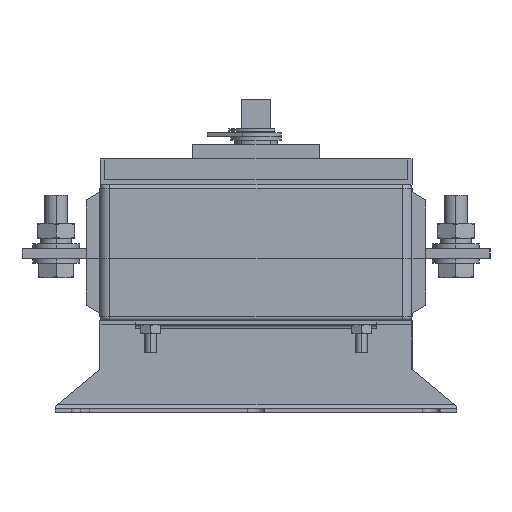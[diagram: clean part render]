
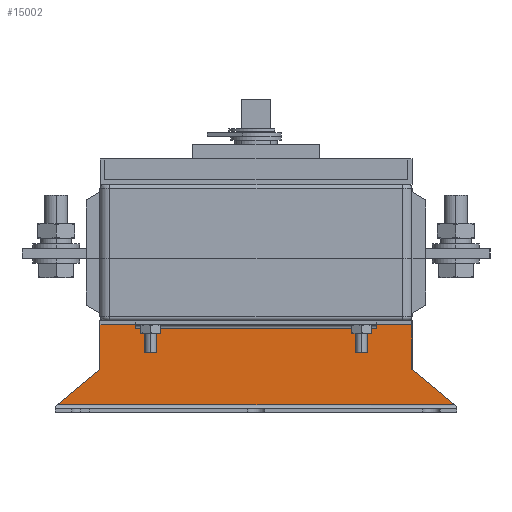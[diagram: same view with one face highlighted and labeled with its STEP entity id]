
A CAD part, left-side view. The second image highlights one B-rep face of the part: STEP entity #15002.
In plain terms, the highlighted planar face has unit normal (-1, 0, 0) as drawn and (0, 0, 1) by its records, which use the part's own axes.
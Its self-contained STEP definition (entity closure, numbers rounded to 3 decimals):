
#14278=DIRECTION('',(-1.,0.,0.));
#14279=VECTOR('',#14278,203.579);
#14280=CARTESIAN_POINT('',(101.789,4.,-8.5));
#14281=LINE('',#14280,#14279);
#14282=DIRECTION('',(1.,0.,0.));
#14283=VECTOR('',#14282,18.);
#14284=CARTESIAN_POINT('',(-80.,45.,-8.5));
#14285=LINE('',#14284,#14283);
#14286=DIRECTION('',(0.,1.,0.));
#14287=VECTOR('',#14286,2.);
#14288=CARTESIAN_POINT('',(-62.,43.,-8.5));
#14289=LINE('',#14288,#14287);
#14290=DIRECTION('',(-1.,0.,0.));
#14291=VECTOR('',#14290,124.);
#14292=CARTESIAN_POINT('',(62.,43.,-8.5));
#14293=LINE('',#14292,#14291);
#14294=DIRECTION('',(0.,1.,0.));
#14295=VECTOR('',#14294,2.);
#14296=CARTESIAN_POINT('',(62.,43.,-8.5));
#14297=LINE('',#14296,#14295);
#14298=DIRECTION('',(1.,0.,0.));
#14299=VECTOR('',#14298,18.);
#14300=CARTESIAN_POINT('',(62.,45.,-8.5));
#14301=LINE('',#14300,#14299);
#14322=DIRECTION('',(-0.771,0.637,0.));
#14323=VECTOR('',#14322,28.263);
#14324=CARTESIAN_POINT('',(101.789,4.,-8.5));
#14325=LINE('',#14324,#14323);
#14356=DIRECTION('',(-0.771,-0.637,0.));
#14357=VECTOR('',#14356,28.263);
#14358=CARTESIAN_POINT('',(-80.,22.,-8.5));
#14359=LINE('',#14358,#14357);
#14368=DIRECTION('',(0.,1.,0.));
#14369=VECTOR('',#14368,23.);
#14370=CARTESIAN_POINT('',(-80.,22.,-8.5));
#14371=LINE('',#14370,#14369);
#14600=DIRECTION('',(0.,1.,0.));
#14601=VECTOR('',#14600,23.);
#14602=CARTESIAN_POINT('',(80.,22.,-8.5));
#14603=LINE('',#14602,#14601);
#14633=CARTESIAN_POINT('',(80.,45.,-8.5));
#14635=VERTEX_POINT('',#14633);
#14637=CARTESIAN_POINT('',(-80.,45.,-8.5));
#14639=VERTEX_POINT('',#14637);
#14644=CARTESIAN_POINT('',(80.,22.,-8.5));
#14645=VERTEX_POINT('',#14644);
#14646=CARTESIAN_POINT('',(-80.,22.,-8.5));
#14647=VERTEX_POINT('',#14646);
#14708=CARTESIAN_POINT('',(101.789,4.,-8.5));
#14709=CARTESIAN_POINT('',(-101.789,4.,-8.5));
#14710=VERTEX_POINT('',#14708);
#14711=VERTEX_POINT('',#14709);
#14720=CARTESIAN_POINT('',(62.,43.,-8.5));
#14721=CARTESIAN_POINT('',(-62.,43.,-8.5));
#14722=VERTEX_POINT('',#14720);
#14723=VERTEX_POINT('',#14721);
#14724=CARTESIAN_POINT('',(62.,45.,-8.5));
#14725=VERTEX_POINT('',#14724);
#14726=CARTESIAN_POINT('',(-62.,45.,-8.5));
#14727=VERTEX_POINT('',#14726);
#14980=CARTESIAN_POINT('',(-103.,2.,-8.5));
#14981=DIRECTION('',(0.,0.,-1.));
#14982=DIRECTION('',(0.,1.,0.));
#14983=AXIS2_PLACEMENT_3D('',#14980,#14981,#14982);
#14984=PLANE('',#14983);
#14986=ORIENTED_EDGE('',*,*,#14985,.T.);
#14988=ORIENTED_EDGE('',*,*,#14987,.F.);
#14990=ORIENTED_EDGE('',*,*,#14989,.T.);
#14991=ORIENTED_EDGE('',*,*,#14823,.T.);
#14992=ORIENTED_EDGE('',*,*,#14858,.F.);
#14993=ORIENTED_EDGE('',*,*,#14974,.F.);
#14994=ORIENTED_EDGE('',*,*,#14802,.T.);
#14995=ORIENTED_EDGE('',*,*,#14838,.T.);
#14997=ORIENTED_EDGE('',*,*,#14996,.F.);
#14999=ORIENTED_EDGE('',*,*,#14998,.F.);
#15000=EDGE_LOOP('',(#14986,#14988,#14990,#14991,#14992,#14993,#14994,#14995,
#14997,#14999));
#15001=FACE_OUTER_BOUND('',#15000,.F.);
#15002=ADVANCED_FACE('',(#15001),#14984,.F.);
#14802=EDGE_CURVE('',#14722,#14725,#14297,.T.);
#14823=EDGE_CURVE('',#14639,#14727,#14285,.T.);
#14838=EDGE_CURVE('',#14725,#14635,#14301,.T.);
#14858=EDGE_CURVE('',#14723,#14727,#14289,.T.);
#14974=EDGE_CURVE('',#14722,#14723,#14293,.T.);
#14985=EDGE_CURVE('',#14710,#14711,#14281,.T.);
#14987=EDGE_CURVE('',#14647,#14711,#14359,.T.);
#14989=EDGE_CURVE('',#14647,#14639,#14371,.T.);
#14996=EDGE_CURVE('',#14645,#14635,#14603,.T.);
#14998=EDGE_CURVE('',#14710,#14645,#14325,.T.);
